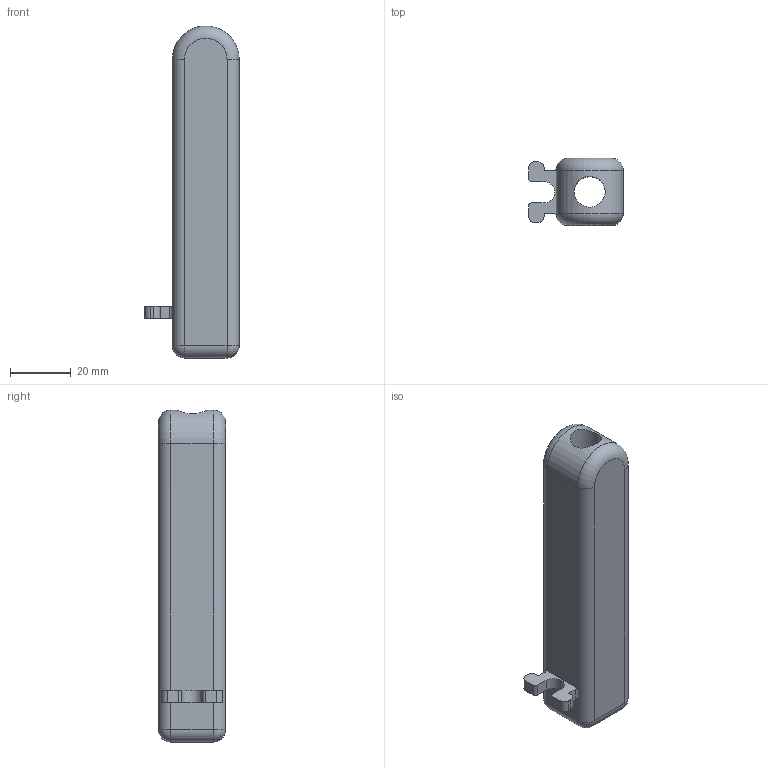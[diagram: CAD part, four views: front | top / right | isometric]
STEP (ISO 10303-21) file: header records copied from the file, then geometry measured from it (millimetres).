
FILE_DESCRIPTION(/* description */ (''),/* implementation_level */ '2;1');
FILE_NAME(/* name */ 'C:/Users/Owner/Desktop/K-CAD Songbird PM4 Centerfire/STEP/Barrels/Barrel Type 3/Barrel Type 3 0.4 inch ID.step',/* time_stamp */ '2020-12-05T21:30:49-05:00',/* author */ (''),/* organization */ (''),/* preprocessor_version */ 'ST-DEVELOPER v18.1',/* originating_system */ 'Autodesk Translation Framework v9.3.0.1241',/* authorisation */ '');
FILE_SCHEMA (('AUTOMOTIVE_DESIGN { 1 0 10303 214 3 1 1 }'));
Length unit declared in the file: inch
Products named in the file (1): Barrel Type 3 0.4 inch ID
Bounding box: 31 x 22 x 109 mm (x, y, z)
Volume: 41371 mm3; surface area: 12937.1 mm2
Topology: 1 solids, 1 shells, 43 faces, 110 edges, 68 vertices
Faces by surface type: cylinder 19, plane 18, sphere 4, torus 2
Full cylindrical faces by diameter (mm): 10.16 x1
Entity records: 1373 total; most frequent: CARTESIAN_POINT 254, DIRECTION 241, ORIENTED_EDGE 218, EDGE_CURVE 109, AXIS2_PLACEMENT_3D 89, VERTEX_POINT 68, LINE 63, VECTOR 63
